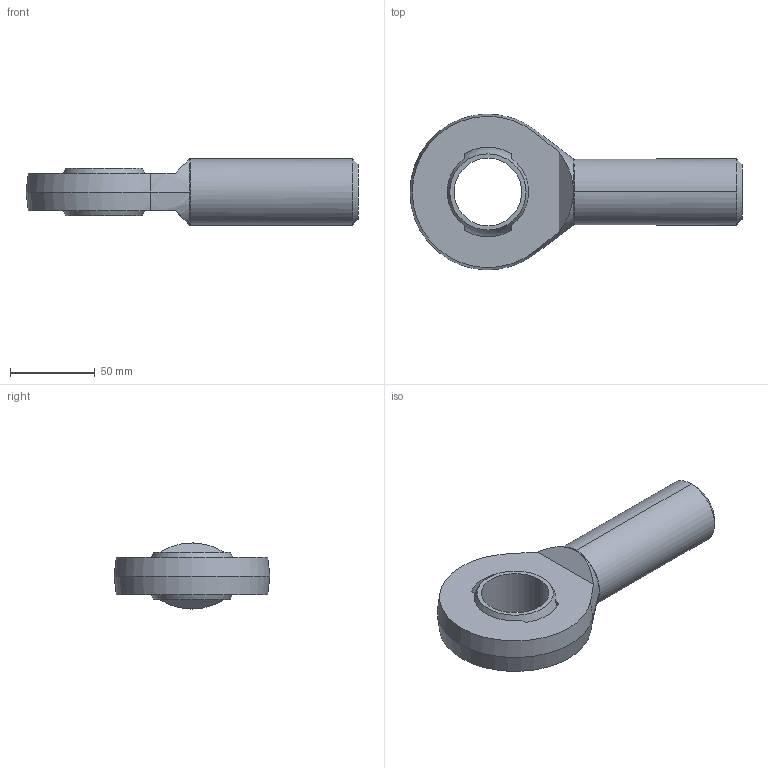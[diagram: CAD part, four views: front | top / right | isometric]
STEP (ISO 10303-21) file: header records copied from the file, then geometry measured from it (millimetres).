
FILE_DESCRIPTION (( 'STEP AP203' ), '1' );
FILE_NAME ('65860.W0041.step', '2014-02-06T11:44:55', ( 'User' ), ( '' ), 'SwSTEP 2.0', 'SolidWorks 2009', '' );
FILE_SCHEMA (( 'CONFIG_CONTROL_DESIGN' ));
Length unit declared in the file: millimetre
Products named in the file (3): Part1_65860.W0041; Part2_65860.W0041; 65860.W0041
Assembly tree (2 placements, depth 2):
  65860.W0041
    Part2_65860.W0041
    Part1_65860.W0041
Bounding box: 196 x 91.94 x 39 mm (x, y, z)
Volume: 245806.3 mm3; surface area: 41137.7 mm2
Topology: 2 solids, 2 shells, 35 faces, 82 edges, 51 vertices
Faces by surface type: plane 15, cylinder 8, sphere 8, cone 4
Entity records: 1389 total; most frequent: CARTESIAN_POINT 263, DIRECTION 196, ORIENTED_EDGE 160, AXIS2_PLACEMENT_3D 84, EDGE_CURVE 80, VERTEX_POINT 51, CIRCLE 44, EDGE_LOOP 41
